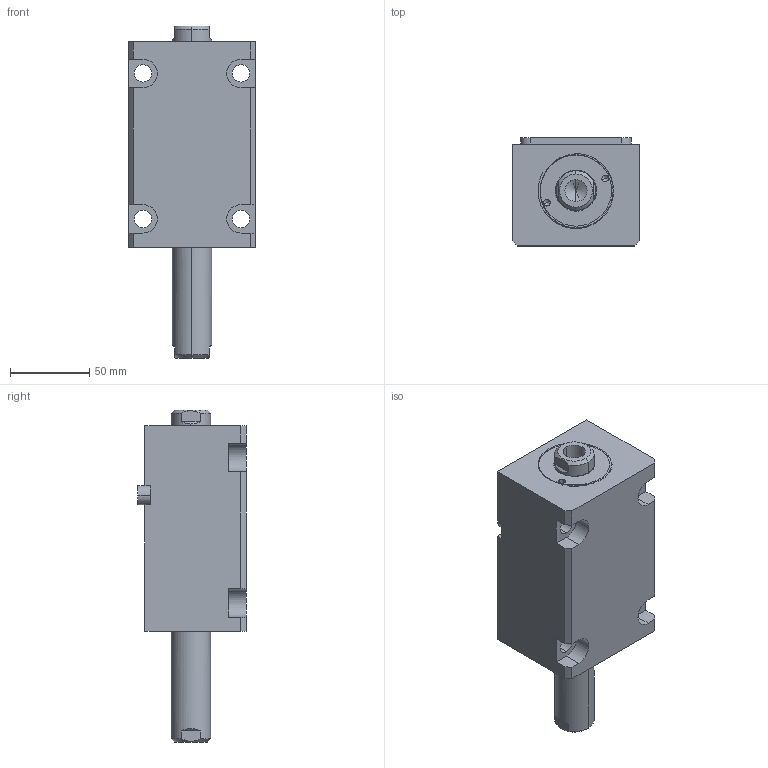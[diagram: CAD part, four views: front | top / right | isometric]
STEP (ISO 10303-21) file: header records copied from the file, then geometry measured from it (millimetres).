
FILE_DESCRIPTION (( 'STEP AP214' ), '1' );
FILE_NAME ('chtb-lwm40x60n_asm.STEP', '2018-05-30T08:24:10', ( 'Windows' ), ( 'Microsoft' ), 'SwSTEP 2.0', 'SolidWorks 2015', '' );
FILE_SCHEMA (( 'AUTOMOTIVE_DESIGN' ));
Length unit declared in the file: millimetre
Products named in the file (5): CHTB-SD40QG; CHTB-LA40PJ; CHTB-SW40X60NHSG; CHTB-LWM40X60NBT; chtb-lwm40x60n_asm
Assembly tree (4 placements, depth 2):
  chtb-lwm40x60n_asm
    CHTB-LWM40X60NBT
    CHTB-SW40X60NHSG
    CHTB-LA40PJ
    CHTB-SD40QG
Bounding box: 80 x 68.5 x 210 mm (x, y, z)
Volume: 617601.2 mm3; surface area: 105695.8 mm2
Topology: 4 solids, 4 shells, 166 faces, 450 edges, 296 vertices
Faces by surface type: cylinder 77, plane 50, bspline 14, cone 13, torus 12
Entity records: 10488 total; most frequent: CARTESIAN_POINT 6156, ORIENTED_EDGE 880, DIRECTION 821, EDGE_CURVE 440, AXIS2_PLACEMENT_3D 326, VERTEX_POINT 296, EDGE_LOOP 196, LINE 169
